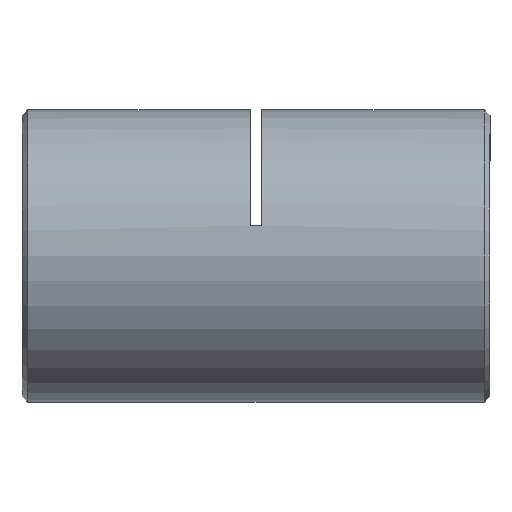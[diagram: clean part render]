
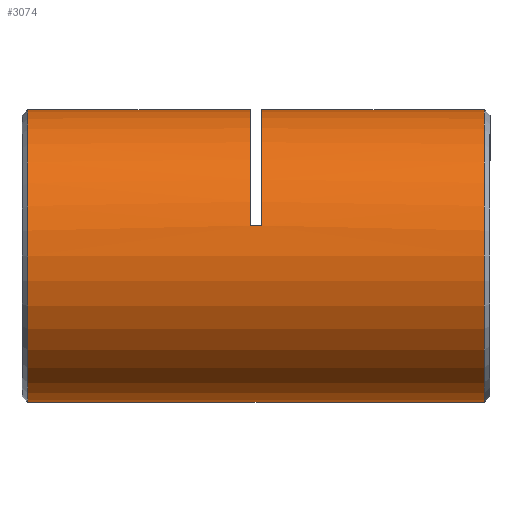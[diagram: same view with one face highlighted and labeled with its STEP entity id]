
A CAD part, left-side view. The second image highlights one B-rep face of the part: STEP entity #3074.
In plain terms, the highlighted cylindrical face has radius 12.5 mm (diameter 25 mm), a partial arc.
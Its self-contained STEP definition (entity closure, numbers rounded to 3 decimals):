
#17 = ORIENTED_EDGE ( 'NONE', *, *, #4760, .T. ) ;
#110 = DIRECTION ( 'NONE',  ( 0., 1., 0. ) ) ;
#119 = CYLINDRICAL_SURFACE ( 'NONE', #3021, 12.5 ) ;
#155 = AXIS2_PLACEMENT_3D ( 'NONE', #2930, #4320, #272 ) ;
#272 = DIRECTION ( 'NONE',  ( 0., 0., 1. ) ) ;
#308 = EDGE_CURVE ( 'NONE', #1334, #1050, #1118, .T. ) ;
#419 = CARTESIAN_POINT ( 'NONE',  ( 0., 20.75, 12.5 ) ) ;
#500 = DIRECTION ( 'NONE',  ( 0., -1., 0. ) ) ;
#734 = ORIENTED_EDGE ( 'NONE', *, *, #984, .T. ) ;
#741 = VERTEX_POINT ( 'NONE', #419 ) ;
#984 = EDGE_CURVE ( 'NONE', #1207, #1334, #5514, .T. ) ;
#994 = FACE_OUTER_BOUND ( 'NONE', #5252, .T. ) ;
#995 = CIRCLE ( 'NONE', #155, 12.5 ) ;
#1050 = VERTEX_POINT ( 'NONE', #5167 ) ;
#1051 = DIRECTION ( 'NONE',  ( 0., 0., -1. ) ) ;
#1072 = VECTOR ( 'NONE', #1435, 1000. ) ;
#1088 = CARTESIAN_POINT ( 'NONE',  ( 0., 40.5, -12.5 ) ) ;
#1118 = CIRCLE ( 'NONE', #4431, 12.5 ) ;
#1168 = ORIENTED_EDGE ( 'NONE', *, *, #4398, .T. ) ;
#1207 = VERTEX_POINT ( 'NONE', #4910 ) ;
#1228 = DIRECTION ( 'NONE',  ( 0., -1., 0. ) ) ;
#1315 = EDGE_CURVE ( 'NONE', #4022, #3596, #4808, .T. ) ;
#1334 = VERTEX_POINT ( 'NONE', #5154 ) ;
#1374 = ORIENTED_EDGE ( 'NONE', *, *, #1315, .F. ) ;
#1435 = DIRECTION ( 'NONE',  ( 0., -1., 0. ) ) ;
#1485 = DIRECTION ( 'NONE',  ( 0., 1., 0. ) ) ;
#1526 = CARTESIAN_POINT ( 'NONE',  ( 0., 39.75, 12.5 ) ) ;
#1591 = ORIENTED_EDGE ( 'NONE', *, *, #5224, .F. ) ;
#1644 = CARTESIAN_POINT ( 'NONE',  ( 0., 40.5, 12.5 ) ) ;
#1820 = AXIS2_PLACEMENT_3D ( 'NONE', #5564, #1875, #1051 ) ;
#1866 = EDGE_CURVE ( 'NONE', #3596, #1050, #5011, .T. ) ;
#1875 = DIRECTION ( 'NONE',  ( 0., -1., 0. ) ) ;
#1958 = CARTESIAN_POINT ( 'NONE',  ( 0., 19.75, 0. ) ) ;
#2111 = DIRECTION ( 'NONE',  ( 0., 0., 1. ) ) ;
#2205 = CARTESIAN_POINT ( 'NONE',  ( -12.226, 19.75, 2.604 ) ) ;
#2266 = ORIENTED_EDGE ( 'NONE', *, *, #5129, .T. ) ;
#2393 = DIRECTION ( 'NONE',  ( 0., -1., 0. ) ) ;
#2427 = VECTOR ( 'NONE', #1228, 1000. ) ;
#2460 = DIRECTION ( 'NONE',  ( 0., 0., -1. ) ) ;
#2512 = CARTESIAN_POINT ( 'NONE',  ( 0., 19.75, 12.5 ) ) ;
#2685 = CARTESIAN_POINT ( 'NONE',  ( 0., 40.5, 12.5 ) ) ;
#2854 = DIRECTION ( 'NONE',  ( 0., 0., 1. ) ) ;
#2930 = CARTESIAN_POINT ( 'NONE',  ( 0., 20.75, 0. ) ) ;
#2946 = VERTEX_POINT ( 'NONE', #5832 ) ;
#3001 = VECTOR ( 'NONE', #500, 1000. ) ;
#3021 = AXIS2_PLACEMENT_3D ( 'NONE', #3815, #2393, #2460 ) ;
#3029 = CARTESIAN_POINT ( 'NONE',  ( 0., 0.75, 0. ) ) ;
#3074 = ADVANCED_FACE ( 'NONE', ( #994 ), #119, .T. ) ;
#3080 = ORIENTED_EDGE ( 'NONE', *, *, #1866, .F. ) ;
#3175 = AXIS2_PLACEMENT_3D ( 'NONE', #1958, #110, #2854 ) ;
#3457 = LINE ( 'NONE', #1644, #2427 ) ;
#3493 = ORIENTED_EDGE ( 'NONE', *, *, #308, .T. ) ;
#3596 = VERTEX_POINT ( 'NONE', #2512 ) ;
#3815 = CARTESIAN_POINT ( 'NONE',  ( 0., 40.5, 0. ) ) ;
#4022 = VERTEX_POINT ( 'NONE', #2205 ) ;
#4320 = DIRECTION ( 'NONE',  ( 0., 1., 0. ) ) ;
#4398 = EDGE_CURVE ( 'NONE', #5023, #1207, #5265, .T. ) ;
#4431 = AXIS2_PLACEMENT_3D ( 'NONE', #3029, #5767, #2111 ) ;
#4673 = LINE ( 'NONE', #5126, #4975 ) ;
#4760 = EDGE_CURVE ( 'NONE', #4022, #2946, #4673, .T. ) ;
#4808 = CIRCLE ( 'NONE', #3175, 12.5 ) ;
#4910 = CARTESIAN_POINT ( 'NONE',  ( 0., 39.75, -12.5 ) ) ;
#4975 = VECTOR ( 'NONE', #1485, 1000. ) ;
#5011 = LINE ( 'NONE', #2685, #3001 ) ;
#5023 = VERTEX_POINT ( 'NONE', #1526 ) ;
#5126 = CARTESIAN_POINT ( 'NONE',  ( -12.226, 20.25, 2.604 ) ) ;
#5129 = EDGE_CURVE ( 'NONE', #2946, #741, #995, .T. ) ;
#5154 = CARTESIAN_POINT ( 'NONE',  ( 0., 0.75, -12.5 ) ) ;
#5167 = CARTESIAN_POINT ( 'NONE',  ( 0., 0.75, 12.5 ) ) ;
#5224 = EDGE_CURVE ( 'NONE', #5023, #741, #3457, .T. ) ;
#5252 = EDGE_LOOP ( 'NONE', ( #1591, #1168, #734, #3493, #3080, #1374, #17, #2266 ) ) ;
#5265 = CIRCLE ( 'NONE', #1820, 12.5 ) ;
#5514 = LINE ( 'NONE', #1088, #1072 ) ;
#5564 = CARTESIAN_POINT ( 'NONE',  ( 0., 39.75, 0. ) ) ;
#5767 = DIRECTION ( 'NONE',  ( 0., 1., 0. ) ) ;
#5832 = CARTESIAN_POINT ( 'NONE',  ( -12.226, 20.75, 2.604 ) ) ;
